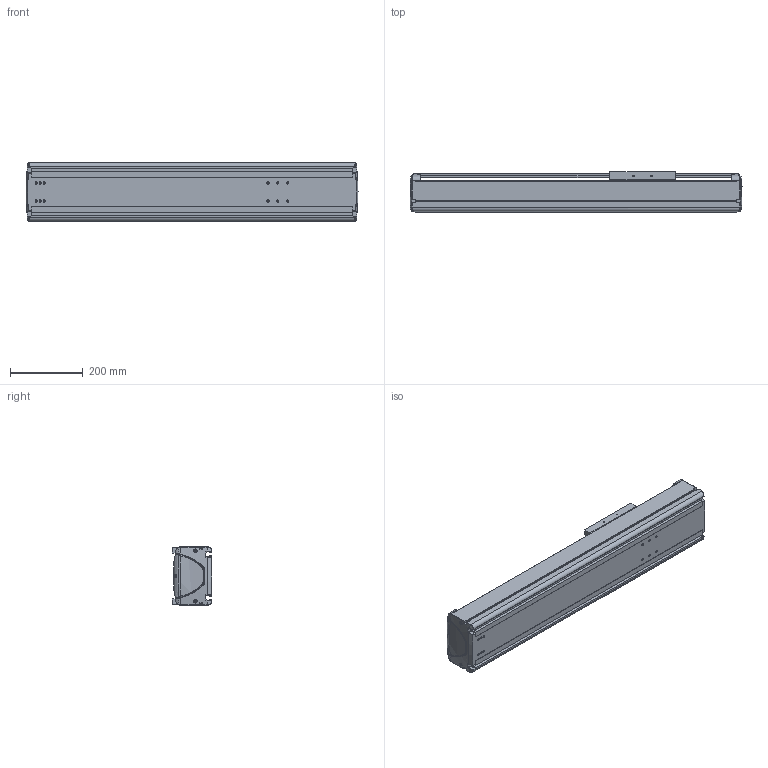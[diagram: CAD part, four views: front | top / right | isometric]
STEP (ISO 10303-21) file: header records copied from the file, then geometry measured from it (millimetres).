
FILE_DESCRIPTION((''),'2;1');
FILE_NAME('BE50G-ST-M_B-50_IGS_PRT','2017-06-18T',(' '),(''),'PRO/ENGINEER BY PARAMETRIC TECHNOLOGY CORPORATION, 2015030','PRO/ENGINEER BY PARAMETRIC TECHNOLOGY CORPORATION, 2015030','');
FILE_SCHEMA(('CONFIG_CONTROL_DESIGN'));
Length unit declared in the file: millimetre
Products named in the file (1): BE50G-ST-M_B-50_IGS_PRT
Bounding box: 914.98 x 110 x 160 mm (x, y, z)
Volume: 4286627.2 mm3; surface area: 1435488.9 mm2
Topology: 2 solids, 71 shells, 1536 faces, 4016 edges, 2565 vertices
Faces by surface type: cylinder 642, plane 609, bspline 102, torus 87, cone 56, sphere 40
Entity records: 52471 total; most frequent: CARTESIAN_POINT 15038, ORIENTED_EDGE 7708, DIRECTION 7690, EDGE_CURVE 3992, AXIS2_PLACEMENT_3D 2848, VERTEX_POINT 2563, VECTOR 1994, LINE 1994
